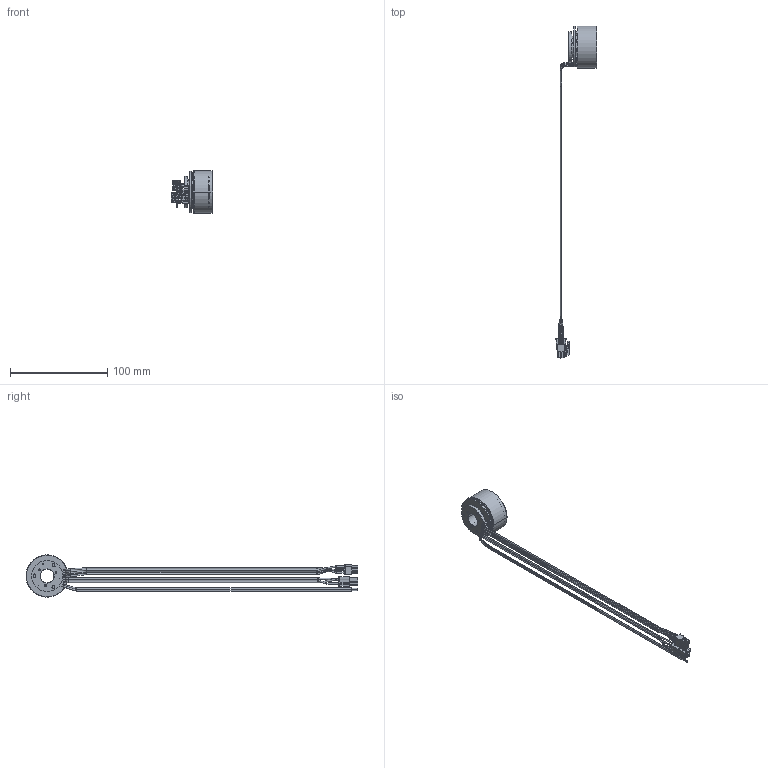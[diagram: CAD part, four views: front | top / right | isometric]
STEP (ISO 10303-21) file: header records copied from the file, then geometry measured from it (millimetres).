
FILE_DESCRIPTION((''),'2;1');
FILE_NAME('548270','2017-02-17T',('mmagpetk'),(''),'CREO PARAMETRIC BY PTC INC, 2016050','CREO PARAMETRIC BY PTC INC, 2016050','');
FILE_SCHEMA(('CONFIG_CONTROL_DESIGN'));
Length unit declared in the file: millimetre
Products named in the file (1): 548270
Bounding box: 42.5 x 341.05 x 43.4 mm (x, y, z)
Volume: 31501.8 mm3; surface area: 42743.4 mm2
Topology: 4 solids, 4 shells, 1850 faces, 4572 edges, 2806 vertices
Faces by surface type: plane 932, cylinder 667, sphere 112, torus 101, cone 38
Entity records: 84146 total; most frequent: CARTESIAN_POINT 13144, DIRECTION 9719, ORIENTED_EDGE 9144, PRESENTATION_STYLE_ASSIGNMENT 6014, STYLED_ITEM 4576, CURVE_STYLE 4572, EDGE_CURVE 4572, AXIS2_PLACEMENT_3D 3418
